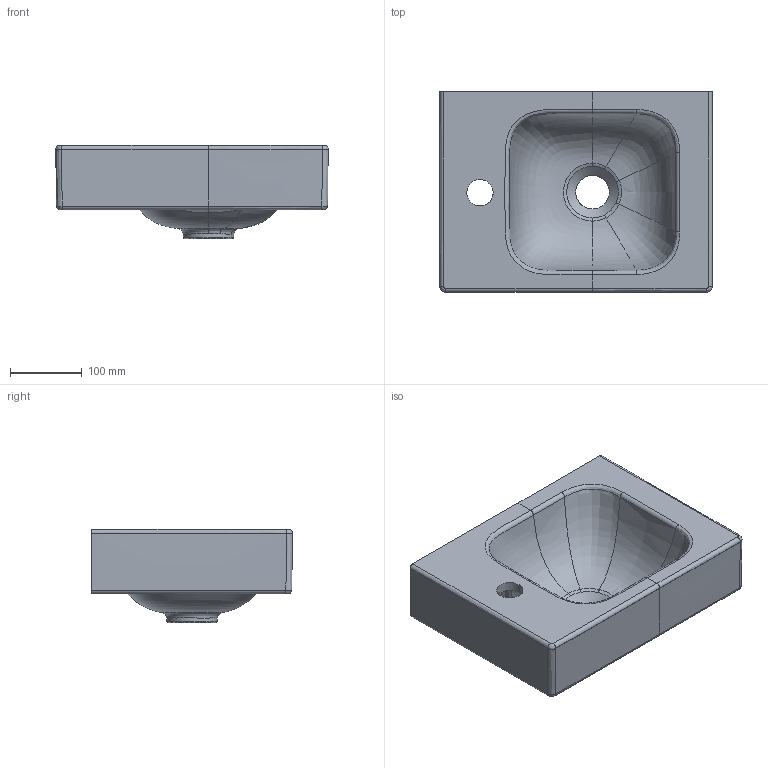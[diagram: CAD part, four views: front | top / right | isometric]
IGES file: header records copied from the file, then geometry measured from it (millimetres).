
Global section: file name: 124836000; native system: Autodesk Inventor 2018; preprocessor: unknown; author: JANAN; date: 20200529.124645; units: millimetre
Bounding box: 380 x 279.85 x 130.03 mm (x, y, z)
Volume: 5015894.5 mm3; surface area: 414931.6 mm2
Topology: 1 solids, 1 shells, 340 faces, 810 edges, 471 vertices
Faces by surface type: bspline 340
